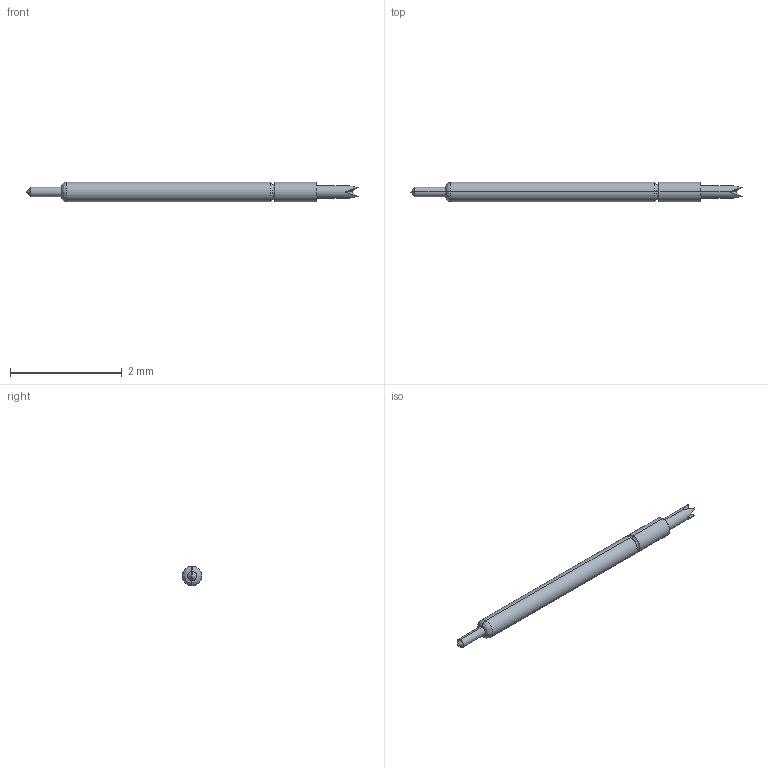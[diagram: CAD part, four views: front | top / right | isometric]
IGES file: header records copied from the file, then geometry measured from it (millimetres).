
Start section: SolidWorks IGES file using analytic representation for surfaces
Global section: file name: Z:\probe solid model mockups\Solidworks models\IGES Files\CSP5-18 IGES files\CSP5-18LB.IGS; native system: SolidWorks 2006 by SolidWorks Corporation; preprocessor: SolidWorks 2006 by SolidWorks Corporation; author: tsakatani; date: 080108.142512; units: inch
Bounding box: 5.94 x 0.35 x 0.35 mm (x, y, z)
Surface area: 6 mm2 (no closed solid volume)
Topology: 0 solids, 0 shells, 25 faces, 142 edges, 140 vertices
Faces by surface type: bspline 15, revolution 10
